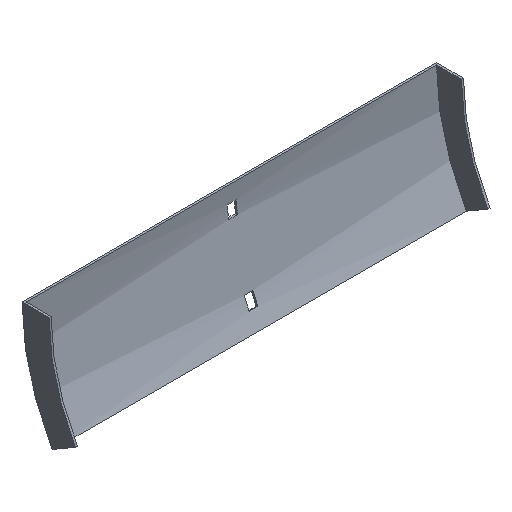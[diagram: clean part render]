
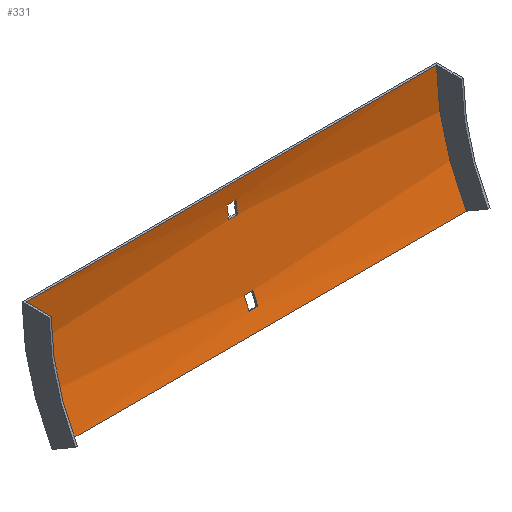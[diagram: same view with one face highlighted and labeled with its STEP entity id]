
A CAD part, isometric view. The second image highlights one B-rep face of the part: STEP entity #331.
In plain terms, the highlighted cylindrical face has radius 165.5 mm (diameter 331 mm), a partial arc.
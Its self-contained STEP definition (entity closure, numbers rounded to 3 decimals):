
#12 = CARTESIAN_POINT ( 'NONE',  ( 152., -23.673, -82.75 ) ) ;
#15 = CARTESIAN_POINT ( 'NONE',  ( 152., -167., 0. ) ) ;
#17 = EDGE_CURVE ( 'NONE', #455, #590, #284, .T. ) ;
#18 = DIRECTION ( 'NONE',  ( -1., 0., 0. ) ) ;
#23 = DIRECTION ( 'NONE',  ( 0., 0., 1. ) ) ;
#25 = EDGE_CURVE ( 'NONE', #381, #366, #96, .T. ) ;
#29 = DIRECTION ( 'NONE',  ( 0., 0., 1. ) ) ;
#37 = LINE ( 'NONE', #274, #534 ) ;
#41 = EDGE_CURVE ( 'NONE', #489, #563, #438, .T. ) ;
#51 = DIRECTION ( 'NONE',  ( 1., 0., 0. ) ) ;
#56 = AXIS2_PLACEMENT_3D ( 'NONE', #75, #267, #162 ) ;
#57 = DIRECTION ( 'NONE',  ( 0., 0., 1. ) ) ;
#61 = LINE ( 'NONE', #12, #555 ) ;
#62 = VERTEX_POINT ( 'NONE', #383 ) ;
#68 = EDGE_CURVE ( 'NONE', #236, #326, #190, .T. ) ;
#75 = CARTESIAN_POINT ( 'NONE',  ( -3.25, -167., 0. ) ) ;
#76 = EDGE_LOOP ( 'NONE', ( #199, #273, #81, #77 ) ) ;
#77 = ORIENTED_EDGE ( 'NONE', *, *, #252, .F. ) ;
#79 = AXIS2_PLACEMENT_3D ( 'NONE', #525, #296, #389 ) ;
#81 = ORIENTED_EDGE ( 'NONE', *, *, #25, .F. ) ;
#96 = CIRCLE ( 'NONE', #115, 165.5 ) ;
#97 = AXIS2_PLACEMENT_3D ( 'NONE', #212, #529, #23 ) ;
#105 = CIRCLE ( 'NONE', #97, 165.5 ) ;
#115 = AXIS2_PLACEMENT_3D ( 'NONE', #247, #155, #205 ) ;
#122 = CYLINDRICAL_SURFACE ( 'NONE', #548, 165.5 ) ;
#123 = ORIENTED_EDGE ( 'NONE', *, *, #376, .T. ) ;
#130 = CIRCLE ( 'NONE', #56, 165.5 ) ;
#153 = CARTESIAN_POINT ( 'NONE',  ( -152., -1.5, 0. ) ) ;
#154 = ORIENTED_EDGE ( 'NONE', *, *, #509, .T. ) ;
#155 = DIRECTION ( 'NONE',  ( 1., 0., 0. ) ) ;
#162 = DIRECTION ( 'NONE',  ( 0., 0., -1. ) ) ;
#164 = CARTESIAN_POINT ( 'NONE',  ( 153.5, -167., 0. ) ) ;
#166 = FACE_BOUND ( 'NONE', #595, .T. ) ;
#167 = VECTOR ( 'NONE', #343, 1000. ) ;
#168 = DIRECTION ( 'NONE',  ( -1., 0., 0. ) ) ;
#173 = EDGE_CURVE ( 'NONE', #366, #489, #250, .T. ) ;
#177 = VERTEX_POINT ( 'NONE', #153 ) ;
#178 = AXIS2_PLACEMENT_3D ( 'NONE', #572, #436, #345 ) ;
#180 = CARTESIAN_POINT ( 'NONE',  ( 3.25, -1.936, -12. ) ) ;
#190 = LINE ( 'NONE', #605, #278 ) ;
#191 = EDGE_CURVE ( 'NONE', #326, #62, #210, .T. ) ;
#195 = ORIENTED_EDGE ( 'NONE', *, *, #191, .T. ) ;
#199 = ORIENTED_EDGE ( 'NONE', *, *, #41, .F. ) ;
#205 = DIRECTION ( 'NONE',  ( 0., 0., -1. ) ) ;
#207 = CARTESIAN_POINT ( 'NONE',  ( -152., -23.673, -82.75 ) ) ;
#209 = DIRECTION ( 'NONE',  ( 1., 0., 0. ) ) ;
#210 = CIRCLE ( 'NONE', #79, 165.5 ) ;
#212 = CARTESIAN_POINT ( 'NONE',  ( -152., -167., 0. ) ) ;
#217 = VERTEX_POINT ( 'NONE', #207 ) ;
#224 = EDGE_CURVE ( 'NONE', #455, #217, #61, .T. ) ;
#236 = VERTEX_POINT ( 'NONE', #520 ) ;
#247 = CARTESIAN_POINT ( 'NONE',  ( 3.25, -167., 0. ) ) ;
#250 = LINE ( 'NONE', #384, #167 ) ;
#252 = EDGE_CURVE ( 'NONE', #563, #381, #577, .T. ) ;
#257 = DIRECTION ( 'NONE',  ( -1., 0., 0. ) ) ;
#267 = DIRECTION ( 'NONE',  ( 1., 0., 0. ) ) ;
#273 = ORIENTED_EDGE ( 'NONE', *, *, #173, .F. ) ;
#274 = CARTESIAN_POINT ( 'NONE',  ( 152., -1.5, 0. ) ) ;
#278 = VECTOR ( 'NONE', #51, 1000. ) ;
#284 = CIRCLE ( 'NONE', #365, 165.5 ) ;
#293 = CARTESIAN_POINT ( 'NONE',  ( -3.25, -1.936, -12. ) ) ;
#296 = DIRECTION ( 'NONE',  ( -1., 0., 0. ) ) ;
#302 = EDGE_CURVE ( 'NONE', #526, #236, #130, .T. ) ;
#309 = EDGE_CURVE ( 'NONE', #217, #177, #105, .T. ) ;
#322 = ORIENTED_EDGE ( 'NONE', *, *, #302, .T. ) ;
#326 = VERTEX_POINT ( 'NONE', #542 ) ;
#330 = ORIENTED_EDGE ( 'NONE', *, *, #309, .F. ) ;
#331 = ADVANCED_FACE ( 'NONE', ( #444, #533, #166 ), #122, .F. ) ;
#343 = DIRECTION ( 'NONE',  ( -1., 0., 0. ) ) ;
#345 = DIRECTION ( 'NONE',  ( 0., 0., 1. ) ) ;
#365 = AXIS2_PLACEMENT_3D ( 'NONE', #15, #474, #57 ) ;
#366 = VERTEX_POINT ( 'NONE', #180 ) ;
#376 = EDGE_CURVE ( 'NONE', #590, #177, #37, .T. ) ;
#380 = ORIENTED_EDGE ( 'NONE', *, *, #17, .T. ) ;
#381 = VERTEX_POINT ( 'NONE', #501 ) ;
#383 = CARTESIAN_POINT ( 'NONE',  ( 3.25, -18.05, -72.14 ) ) ;
#384 = CARTESIAN_POINT ( 'NONE',  ( 153.5, -1.936, -12. ) ) ;
#389 = DIRECTION ( 'NONE',  ( 0., 0., 1. ) ) ;
#410 = ORIENTED_EDGE ( 'NONE', *, *, #68, .T. ) ;
#411 = CARTESIAN_POINT ( 'NONE',  ( 152., -23.673, -82.75 ) ) ;
#434 = CARTESIAN_POINT ( 'NONE',  ( -3.25, -2.838, -21. ) ) ;
#436 = DIRECTION ( 'NONE',  ( -1., 0., 0. ) ) ;
#438 = CIRCLE ( 'NONE', #178, 165.5 ) ;
#443 = CARTESIAN_POINT ( 'NONE',  ( -3.25, -18.05, -72.14 ) ) ;
#444 = FACE_BOUND ( 'NONE', #76, .T. ) ;
#446 = CARTESIAN_POINT ( 'NONE',  ( 152., -1.5, 0. ) ) ;
#452 = CARTESIAN_POINT ( 'NONE',  ( 153.5, -2.838, -21. ) ) ;
#455 = VERTEX_POINT ( 'NONE', #411 ) ;
#474 = DIRECTION ( 'NONE',  ( 1., 0., 0. ) ) ;
#478 = EDGE_LOOP ( 'NONE', ( #330, #551, #380, #123 ) ) ;
#489 = VERTEX_POINT ( 'NONE', #293 ) ;
#497 = VECTOR ( 'NONE', #209, 1000. ) ;
#501 = CARTESIAN_POINT ( 'NONE',  ( 3.25, -2.838, -21. ) ) ;
#509 = EDGE_CURVE ( 'NONE', #62, #526, #541, .T. ) ;
#520 = CARTESIAN_POINT ( 'NONE',  ( -3.25, -14.331, -63.895 ) ) ;
#525 = CARTESIAN_POINT ( 'NONE',  ( 3.25, -167., 0. ) ) ;
#526 = VERTEX_POINT ( 'NONE', #443 ) ;
#527 = CARTESIAN_POINT ( 'NONE',  ( 153.5, -18.05, -72.14 ) ) ;
#529 = DIRECTION ( 'NONE',  ( 1., 0., 0. ) ) ;
#533 = FACE_OUTER_BOUND ( 'NONE', #478, .T. ) ;
#534 = VECTOR ( 'NONE', #554, 1000. ) ;
#541 = LINE ( 'NONE', #527, #584 ) ;
#542 = CARTESIAN_POINT ( 'NONE',  ( 3.25, -14.331, -63.895 ) ) ;
#548 = AXIS2_PLACEMENT_3D ( 'NONE', #164, #257, #29 ) ;
#551 = ORIENTED_EDGE ( 'NONE', *, *, #224, .F. ) ;
#554 = DIRECTION ( 'NONE',  ( -1., 0., 0. ) ) ;
#555 = VECTOR ( 'NONE', #18, 1000. ) ;
#563 = VERTEX_POINT ( 'NONE', #434 ) ;
#572 = CARTESIAN_POINT ( 'NONE',  ( -3.25, -167., 0. ) ) ;
#577 = LINE ( 'NONE', #452, #497 ) ;
#584 = VECTOR ( 'NONE', #168, 1000. ) ;
#590 = VERTEX_POINT ( 'NONE', #446 ) ;
#595 = EDGE_LOOP ( 'NONE', ( #154, #322, #410, #195 ) ) ;
#605 = CARTESIAN_POINT ( 'NONE',  ( 153.5, -14.331, -63.895 ) ) ;
